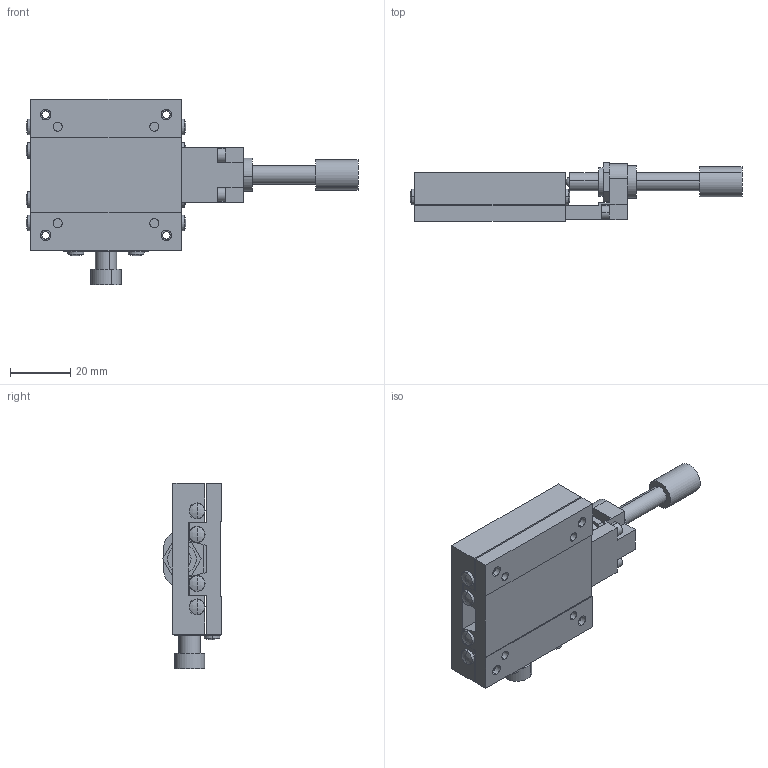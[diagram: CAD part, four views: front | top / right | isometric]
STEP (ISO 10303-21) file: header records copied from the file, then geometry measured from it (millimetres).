
FILE_DESCRIPTION (( 'STEP AP214' ), '1' );
FILE_NAME ('LS‐5041‐C6.STEP', '2007-08-29T02:59:12', ( '' ), ( '' ), 'SwSTEP 2.0', 'SolidWorks 2006303', '' );
FILE_SCHEMA (( 'AUTOMOTIVE_DESIGN' ));
Length unit declared in the file: millimetre
Products named in the file (3): LS50C600－1_ﾃﾞﾌｫﾙﾄ; LS50C600－2_ﾃﾞﾌｫﾙﾄ; LS‐5041‐C6
Assembly tree (2 placements, depth 2):
  LS‐5041‐C6
    LS50C600－2_ﾃﾞﾌｫﾙﾄ
    LS50C600－1_ﾃﾞﾌｫﾙﾄ
Bounding box: 110 x 19.35 x 61.3 mm (x, y, z)
Volume: 41038.7 mm3; surface area: 19893.9 mm2
Topology: 3 solids, 3 shells, 202 faces, 505 edges, 325 vertices
Faces by surface type: plane 87, cylinder 73, sphere 22, cone 20
Entity records: 6208 total; most frequent: DIRECTION 1145, CARTESIAN_POINT 1031, ORIENTED_EDGE 1002, EDGE_CURVE 501, AXIS2_PLACEMENT_3D 437, VERTEX_POINT 323, VECTOR 271, LINE 271
